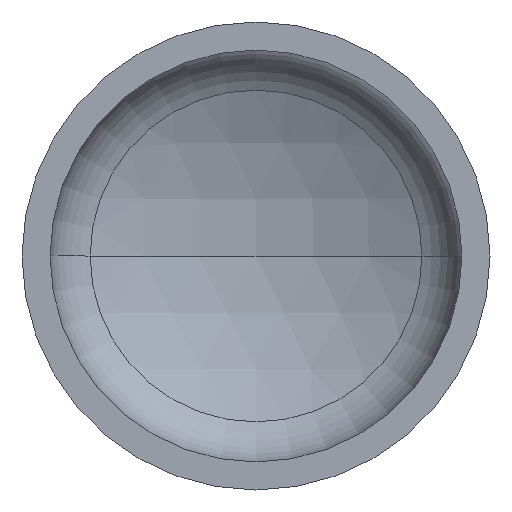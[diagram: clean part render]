
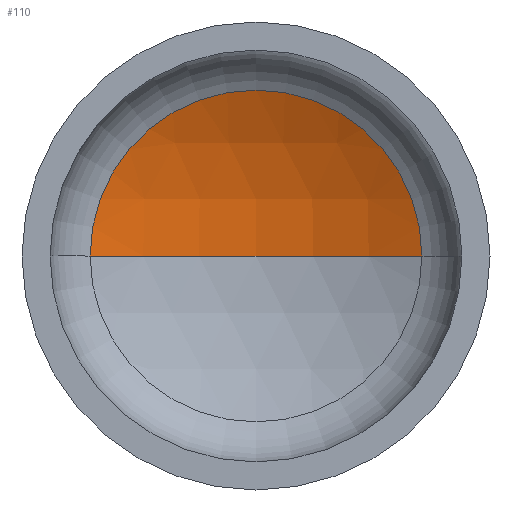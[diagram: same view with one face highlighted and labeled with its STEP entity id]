
A CAD part, front view. The second image highlights one B-rep face of the part: STEP entity #110.
In plain terms, the highlighted spherical face has radius 1120 mm.
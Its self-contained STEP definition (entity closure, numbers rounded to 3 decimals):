
#4 = DIRECTION ( 'NONE',  ( 0., 0., -1. ) ) ;
#6 = DIRECTION ( 'NONE',  ( -1., 0., 0. ) ) ;
#7 = AXIS2_PLACEMENT_3D ( 'NONE', #261, #156, #390 ) ;
#13 = CARTESIAN_POINT ( 'NONE',  ( 0., -711.31, 0. ) ) ;
#15 = DIRECTION ( 'NONE',  ( 1., 0., 0. ) ) ;
#16 = AXIS2_PLACEMENT_3D ( 'NONE', #335, #128, #132 ) ;
#26 = ORIENTED_EDGE ( 'NONE', *, *, #349, .F. ) ;
#39 = AXIS2_PLACEMENT_3D ( 'NONE', #13, #4, #6 ) ;
#45 = AXIS2_PLACEMENT_3D ( 'NONE', #98, #411, #15 ) ;
#68 = ORIENTED_EDGE ( 'NONE', *, *, #345, .T. ) ;
#98 = CARTESIAN_POINT ( 'NONE',  ( 0., 292.742, 0. ) ) ;
#102 = EDGE_CURVE ( 'NONE', #401, #169, #131, .T. ) ;
#110 = ADVANCED_FACE ( 'NONE', ( #276 ), #409, .F. ) ;
#128 = DIRECTION ( 'NONE',  ( 0., 0., -1. ) ) ;
#131 = CIRCLE ( 'NONE', #45, 496.265 ) ;
#132 = DIRECTION ( 'NONE',  ( -1., 0., 0. ) ) ;
#156 = DIRECTION ( 'NONE',  ( 0., 0., 1. ) ) ;
#169 = VERTEX_POINT ( 'NONE', #237 ) ;
#216 = CARTESIAN_POINT ( 'NONE',  ( 496.265, 292.742, 0. ) ) ;
#221 = VERTEX_POINT ( 'NONE', #249 ) ;
#237 = CARTESIAN_POINT ( 'NONE',  ( -496.265, 292.742, 0. ) ) ;
#249 = CARTESIAN_POINT ( 'NONE',  ( 0., 408.69, 0. ) ) ;
#261 = CARTESIAN_POINT ( 'NONE',  ( 0., -711.31, 0. ) ) ;
#276 = FACE_OUTER_BOUND ( 'NONE', #323, .T. ) ;
#308 = CIRCLE ( 'NONE', #16, 1120. ) ;
#323 = EDGE_LOOP ( 'NONE', ( #26, #68, #402 ) ) ;
#335 = CARTESIAN_POINT ( 'NONE',  ( 0., -711.31, 0. ) ) ;
#345 = EDGE_CURVE ( 'NONE', #221, #401, #308, .T. ) ;
#349 = EDGE_CURVE ( 'NONE', #221, #169, #373, .T. ) ;
#373 = CIRCLE ( 'NONE', #7, 1120. ) ;
#390 = DIRECTION ( 'NONE',  ( 1., 0., 0. ) ) ;
#401 = VERTEX_POINT ( 'NONE', #216 ) ;
#402 = ORIENTED_EDGE ( 'NONE', *, *, #102, .T. ) ;
#409 = SPHERICAL_SURFACE ( 'NONE', #39, 1120. ) ;
#411 = DIRECTION ( 'NONE',  ( 0., -1., 0. ) ) ;
